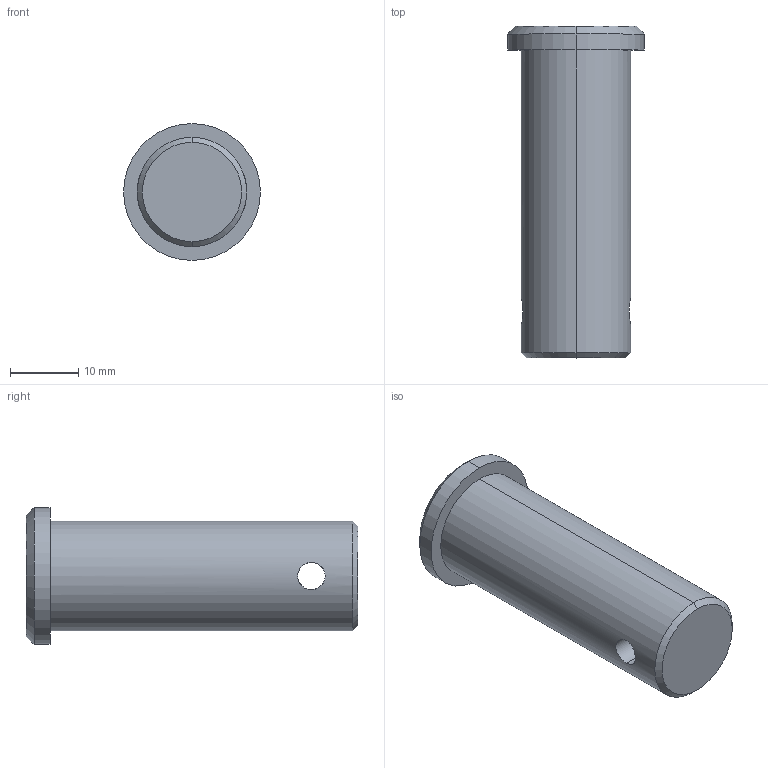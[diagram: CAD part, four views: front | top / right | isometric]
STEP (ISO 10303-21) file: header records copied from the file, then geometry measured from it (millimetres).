
FILE_DESCRIPTION (( 'STEP AP203' ), '1' );
FILE_NAME ('65660.W0116.step', '2023-10-06T09:59:26', ( '' ), ( '' ), 'SwSTEP 2.0', 'SolidWorks 2019', '' );
FILE_SCHEMA (( 'CONFIG_CONTROL_DESIGN' ));
Length unit declared in the file: millimetre
Products named in the file (1): 65660.W0116
Bounding box: 20 x 48.5 x 20 mm (x, y, z)
Volume: 9893.1 mm3; surface area: 3215.2 mm2
Topology: 1 solids, 1 shells, 13 faces, 26 edges, 16 vertices
Faces by surface type: cylinder 6, cone 4, plane 3
Entity records: 521 total; most frequent: CARTESIAN_POINT 164, DIRECTION 62, ORIENTED_EDGE 52, EDGE_CURVE 26, AXIS2_PLACEMENT_3D 26, VERTEX_POINT 16, EDGE_LOOP 16, ADVANCED_FACE 13
